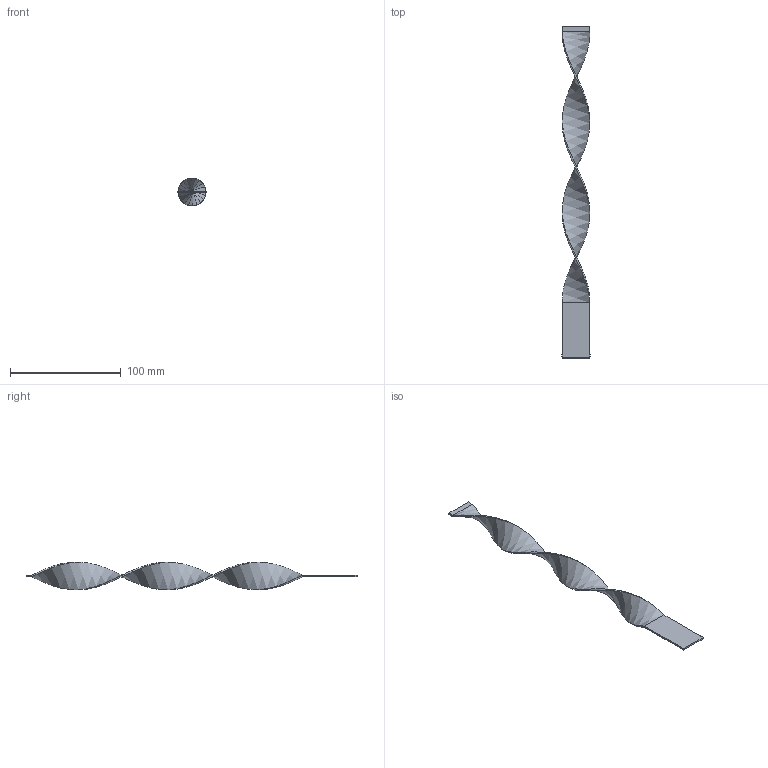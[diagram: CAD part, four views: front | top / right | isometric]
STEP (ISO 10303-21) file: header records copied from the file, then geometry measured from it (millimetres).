
FILE_DESCRIPTION (( 'STEP AP203' ), '1' );
FILE_NAME ('RLAS-25SMx300.STEP', '2015-12-10T14:25:41', ( 'Balzi' ), ( '' ), 'SwSTEP 2.0', 'SolidWorks 2015', '' );
FILE_SCHEMA (( 'CONFIG_CONTROL_DESIGN' ));
Length unit declared in the file: millimetre
Products named in the file (1): RLAS-25SMx300
Bounding box: 25.4 x 300 x 24.85 mm (x, y, z)
Volume: 11160.5 mm3; surface area: 16302.7 mm2
Topology: 1 solids, 1 shells, 22 faces, 52 edges, 32 vertices
Faces by surface type: plane 18, bspline 4
Entity records: 2109 total; most frequent: CARTESIAN_POINT 1563, ORIENTED_EDGE 104, DIRECTION 82, EDGE_CURVE 52, VECTOR 44, LINE 44, VERTEX_POINT 32, FACE_OUTER_BOUND 22
